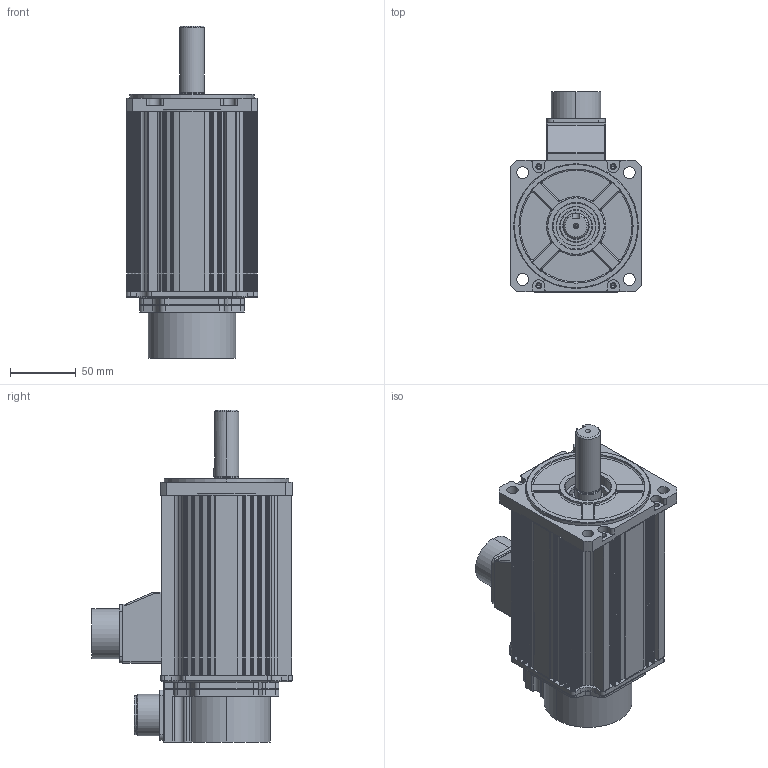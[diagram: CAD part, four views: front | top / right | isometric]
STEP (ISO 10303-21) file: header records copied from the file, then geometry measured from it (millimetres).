
FILE_DESCRIPTION (( 'STEP AP214' ), '1' );
FILE_NAME ('KANS-15D¡à2N2.STEP', '2026-09-12T01:26:44', ( '' ), ( '' ), 'SwSTEP 2.0', 'SolidWorks 2023', '' );
FILE_SCHEMA (( 'AUTOMOTIVE_DESIGN' ));
Length unit declared in the file: millimetre
Products named in the file (10): □100 FLANGE; □100 BRACKET_BR; Ø19-KEY6X42; MS3102A 24_표준; □100-137mm; 10050908 CONNECTOR BOX_MS22 or MS24; MS3102A 20-29P; KANS-15D□2N2; 10060024(ENCODER COVER ADAPTOR,□100,□120); 1006002202 ENCODER COVER
Assembly tree (9 placements, depth 2):
  KANS-15D□2N2
    □100-137mm
    □100 FLANGE
    □100 BRACKET_BR
    10060024(ENCODER COVER ADAPTOR,□100,□120)
    1006002202 ENCODER COVER
    MS3102A 20-29P
    Ø19-KEY6X42
    10050908 CONNECTOR BOX_MS22 or MS24
    MS3102A 24_표준
Bounding box: 100 x 152.42 x 253 mm (x, y, z)
Volume: 470973.2 mm3; surface area: 266099.2 mm2
Topology: 9 solids, 9 shells, 1757 faces, 4844 edges, 3130 vertices
Faces by surface type: cylinder 778, plane 774, torus 74, cone 64, bspline 35, sphere 32
Entity records: 57709 total; most frequent: CARTESIAN_POINT 11539, DIRECTION 9945, ORIENTED_EDGE 9572, EDGE_CURVE 4786, AXIS2_PLACEMENT_3D 3562, VERTEX_POINT 3122, LINE 2821, VECTOR 2821
